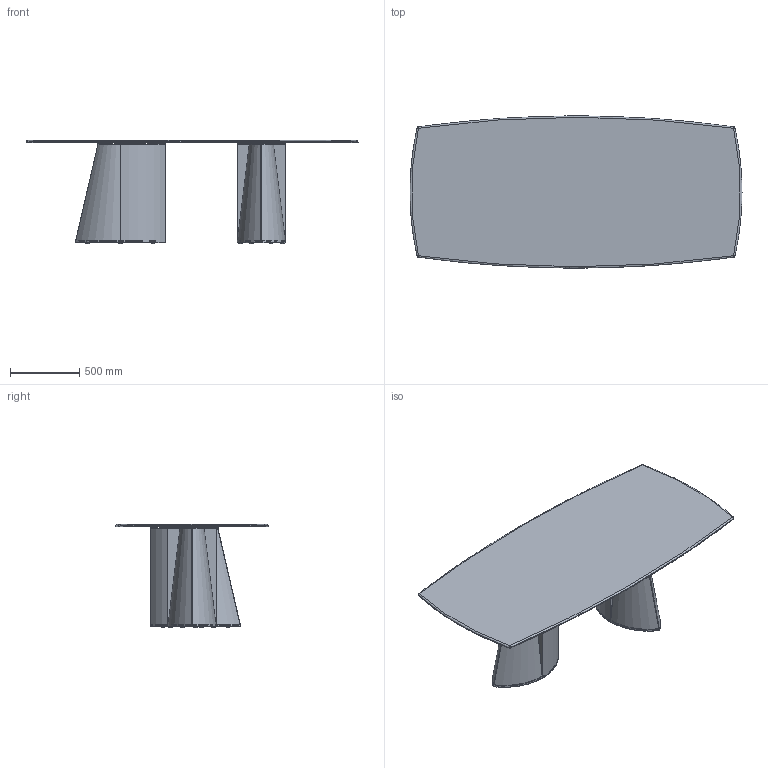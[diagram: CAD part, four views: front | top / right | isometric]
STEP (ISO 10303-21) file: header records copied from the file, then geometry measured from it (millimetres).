
FILE_DESCRIPTION(/* description */ (''),/* implementation_level */ '2;1');
FILE_NAME(/* name */ 'OGIS240_3D',/* time_stamp */ '2026-06-30T09:54:57+02:00',/* author */ (''),/* organization */ (''),/* preprocessor_version */ 'ST-DEVELOPER v16.5',/* originating_system */ '',/* authorisation */ '');
FILE_SCHEMA (('CONFIG_CONTROL_DESIGN'));
Length unit declared in the file: millimetre
Products named in the file (1): Document
Bounding box: 2398.83 x 1099.95 x 745 mm (x, y, z)
Volume: 42394679.6 mm3; surface area: 10383217.1 mm2
Topology: 45 solids, 45 shells, 528 faces, 1086 edges, 648 vertices
Faces by surface type: plane 334, bspline 194
Entity records: 16254 total; most frequent: CARTESIAN_POINT 8712, ORIENTED_EDGE 2172, EDGE_CURVE 1086, B_SPLINE_CURVE_WITH_KNOTS 754, VERTEX_POINT 648, EDGE_LOOP 568, ADVANCED_FACE 528, FACE_OUTER_BOUND 528
